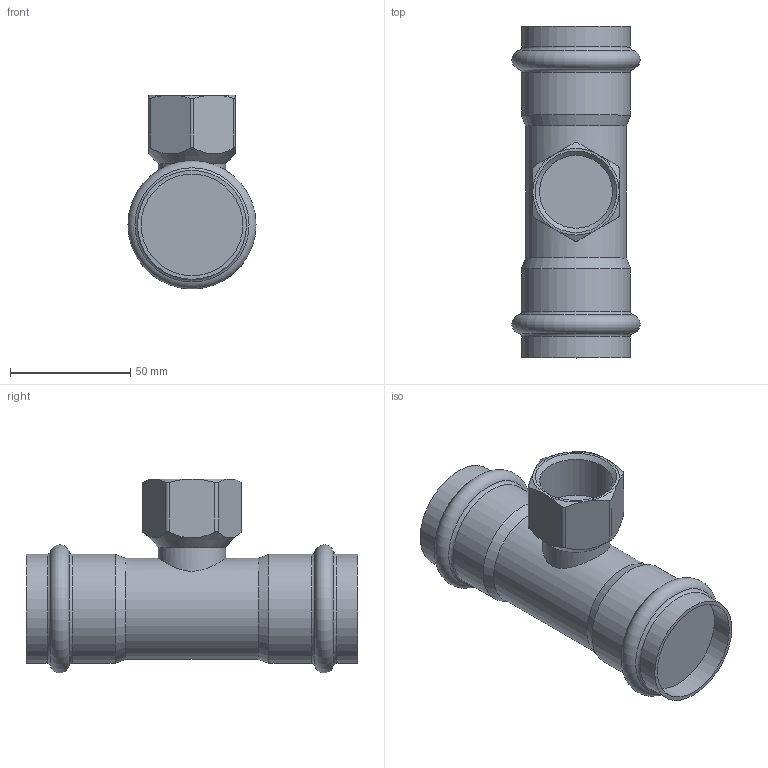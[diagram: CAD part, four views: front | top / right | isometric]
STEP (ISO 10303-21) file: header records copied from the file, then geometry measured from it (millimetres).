
FILE_DESCRIPTION(('STEP AP203'), '1');
FILE_NAME('VTi.932.I.420642', '', ('UNSPECIFIED'), ('UNSPECIFIED'), 'C3D Converter', 'C3D Toolkit', '');
FILE_SCHEMA(('CONFIG_CONTROL_DESIGN'));
Length unit declared in the file: millimetre
Bounding box: 53.29 x 138 x 80.65 mm (x, y, z)
Volume: 211875.7 mm3; surface area: 32561.4 mm2
Topology: 1 solids, 1 shells, 43 faces, 94 edges, 56 vertices
Faces by surface type: cylinder 15, plane 12, cone 10, torus 6
Full cylindrical faces by diameter (mm): 28 x1, 30.292 x1, 42 x1, 42.3 x2, 45.3 x4
Entity records: 2375 total; most frequent: CARTESIAN_POINT 1521, DIRECTION 156, ORIENTED_EDGE 148, EDGE_CURVE 74, AXIS2_PLACEMENT_3D 72, EDGE_LOOP 66, VERTEX_POINT 56, ADVANCED_FACE 43
